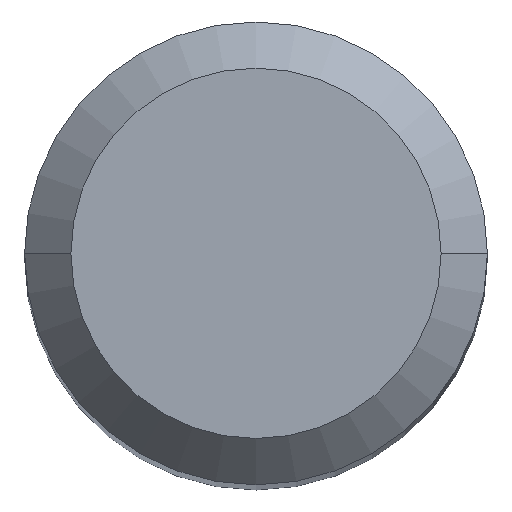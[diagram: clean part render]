
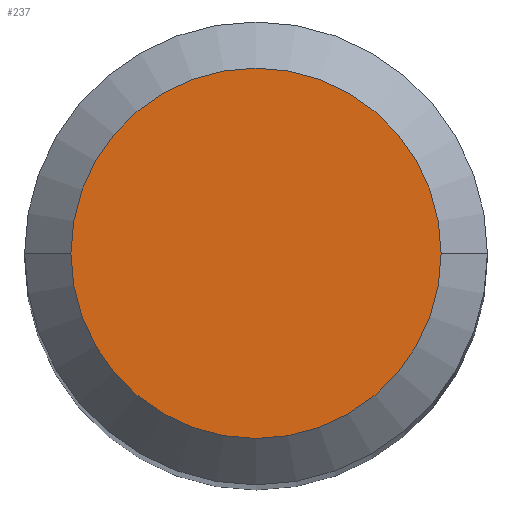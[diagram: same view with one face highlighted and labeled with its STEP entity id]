
A CAD part, top view. The second image highlights one B-rep face of the part: STEP entity #237.
In plain terms, the highlighted planar face has unit normal (0, 0, 1).
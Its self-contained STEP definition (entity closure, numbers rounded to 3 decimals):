
#29 = AXIS2_PLACEMENT_3D ( 'NONE', #458, #532, #300 ) ;
#30 = VERTEX_POINT ( 'NONE', #88 ) ;
#33 = DIRECTION ( 'NONE',  ( -1., 0., 0. ) ) ;
#46 = CARTESIAN_POINT ( 'NONE',  ( 0., 0., 0. ) ) ;
#77 = ORIENTED_EDGE ( 'NONE', *, *, #409, .F. ) ;
#88 = CARTESIAN_POINT ( 'NONE',  ( -2.4, 0., 0. ) ) ;
#112 = AXIS2_PLACEMENT_3D ( 'NONE', #388, #471, #245 ) ;
#137 = CIRCLE ( 'NONE', #504, 2.4 ) ;
#186 = CARTESIAN_POINT ( 'NONE',  ( 2.4, 0., 0. ) ) ;
#237 = ADVANCED_FACE ( 'NONE', ( #433 ), #242, .T. ) ;
#242 = PLANE ( 'NONE',  #112 ) ;
#245 = DIRECTION ( 'NONE',  ( 1., 0., 0. ) ) ;
#287 = CIRCLE ( 'NONE', #29, 2.4 ) ;
#300 = DIRECTION ( 'NONE',  ( -1., 0., 0. ) ) ;
#317 = EDGE_CURVE ( 'NONE', #30, #440, #287, .T. ) ;
#388 = CARTESIAN_POINT ( 'NONE',  ( 0., 2.4, 0. ) ) ;
#403 = EDGE_LOOP ( 'NONE', ( #516, #77 ) ) ;
#409 = EDGE_CURVE ( 'NONE', #440, #30, #137, .T. ) ;
#433 = FACE_OUTER_BOUND ( 'NONE', #403, .T. ) ;
#440 = VERTEX_POINT ( 'NONE', #186 ) ;
#458 = CARTESIAN_POINT ( 'NONE',  ( 0., 0., 0. ) ) ;
#471 = DIRECTION ( 'NONE',  ( 0., 0., 1. ) ) ;
#490 = DIRECTION ( 'NONE',  ( 0., 0., -1. ) ) ;
#504 = AXIS2_PLACEMENT_3D ( 'NONE', #46, #490, #33 ) ;
#516 = ORIENTED_EDGE ( 'NONE', *, *, #317, .F. ) ;
#532 = DIRECTION ( 'NONE',  ( 0., 0., -1. ) ) ;
